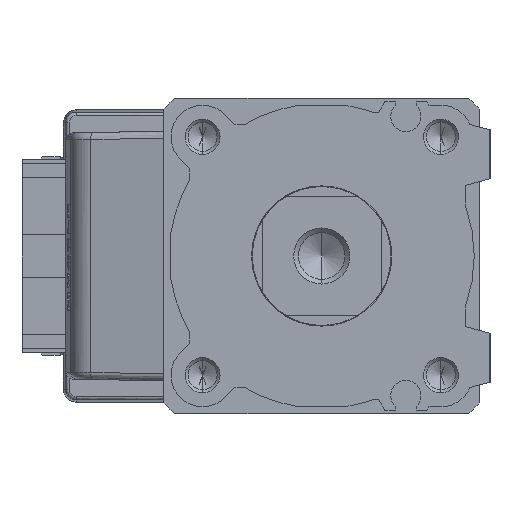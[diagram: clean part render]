
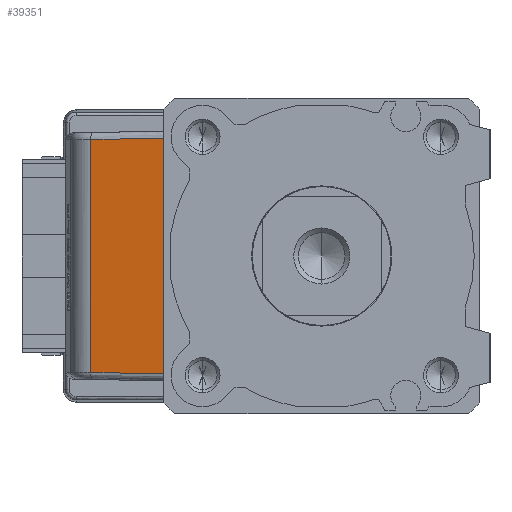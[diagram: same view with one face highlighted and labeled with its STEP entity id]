
A CAD part, left-side view. The second image highlights one B-rep face of the part: STEP entity #39351.
In plain terms, the highlighted planar face has unit normal (-0.985, 0.174, 0) as drawn and (0, 0.174, 0.985) by its records, which use the part's own axes.
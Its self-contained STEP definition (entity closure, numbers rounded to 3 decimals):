
#607 = CARTESIAN_POINT ( 'NONE',  ( -16.825, 20.983, -38.274 ) ) ;
#812 = CARTESIAN_POINT ( 'NONE',  ( -16.825, 21., -38.277 ) ) ;
#2752 = VECTOR ( 'NONE', #9168, 1000. ) ;
#2907 = CARTESIAN_POINT ( 'NONE',  ( 16.825, 21., -38.277 ) ) ;
#4712 = LINE ( 'NONE', #39217, #28164 ) ;
#5322 = DIRECTION ( 'NONE',  ( 0., -0.174, -0.985 ) ) ;
#9168 = DIRECTION ( 'NONE',  ( -0.017, 0.985, -0.174 ) ) ;
#11360 = ORIENTED_EDGE ( 'NONE', *, *, #22943, .T. ) ;
#12160 = EDGE_CURVE ( 'NONE', #31685, #36776, #4712, .T. ) ;
#12714 = EDGE_CURVE ( 'NONE', #30041, #14293, #28956, .T. ) ;
#14293 = VERTEX_POINT ( 'NONE', #2907 ) ;
#16214 = LINE ( 'NONE', #607, #33337 ) ;
#16863 = VECTOR ( 'NONE', #29756, 1000. ) ;
#17432 = AXIS2_PLACEMENT_3D ( 'NONE', #32894, #5322, #17832 ) ;
#17832 = DIRECTION ( 'NONE',  ( 1., 0., 0. ) ) ;
#17978 = ORIENTED_EDGE ( 'NONE', *, *, #12714, .T. ) ;
#20177 = ORIENTED_EDGE ( 'NONE', *, *, #12160, .T. ) ;
#22576 = CARTESIAN_POINT ( 'NONE',  ( -16.617, 32.922, -40.379 ) ) ;
#22943 = EDGE_CURVE ( 'NONE', #36776, #30041, #16214, .T. ) ;
#24118 = EDGE_CURVE ( 'NONE', #14293, #31685, #24753, .T. ) ;
#24753 = LINE ( 'NONE', #39412, #2752 ) ;
#28164 = VECTOR ( 'NONE', #38805, 1000. ) ;
#28956 = LINE ( 'NONE', #38719, #16863 ) ;
#29638 = CARTESIAN_POINT ( 'NONE',  ( 16.617, 32.922, -40.379 ) ) ;
#29756 = DIRECTION ( 'NONE',  ( 1., 0., 0. ) ) ;
#30041 = VERTEX_POINT ( 'NONE', #812 ) ;
#30673 = ORIENTED_EDGE ( 'NONE', *, *, #24118, .T. ) ;
#31685 = VERTEX_POINT ( 'NONE', #29638 ) ;
#32894 = CARTESIAN_POINT ( 'NONE',  ( 0., 21.26, -38.323 ) ) ;
#33337 = VECTOR ( 'NONE', #38029, 1000. ) ;
#36776 = VERTEX_POINT ( 'NONE', #22576 ) ;
#37707 = EDGE_LOOP ( 'NONE', ( #20177, #11360, #17978, #30673 ) ) ;
#38029 = DIRECTION ( 'NONE',  ( -0.017, -0.985, 0.174 ) ) ;
#38719 = CARTESIAN_POINT ( 'NONE',  ( 0., 21., -38.277 ) ) ;
#38805 = DIRECTION ( 'NONE',  ( -1., 0., 0. ) ) ;
#38826 = FACE_OUTER_BOUND ( 'NONE', #37707, .T. ) ;
#39017 = PLANE ( 'NONE',  #17432 ) ;
#39217 = CARTESIAN_POINT ( 'NONE',  ( -17.568, 32.922, -40.379 ) ) ;
#39351 = ADVANCED_FACE ( 'NONE', ( #38826 ), #39017, .F. ) ;
#39412 = CARTESIAN_POINT ( 'NONE',  ( 16.617, 32.905, -40.376 ) ) ;
